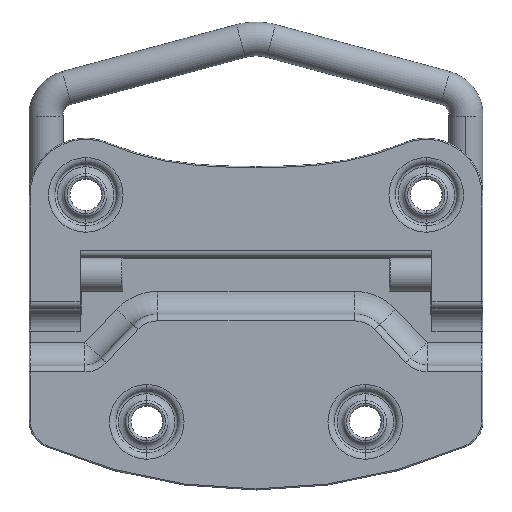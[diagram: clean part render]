
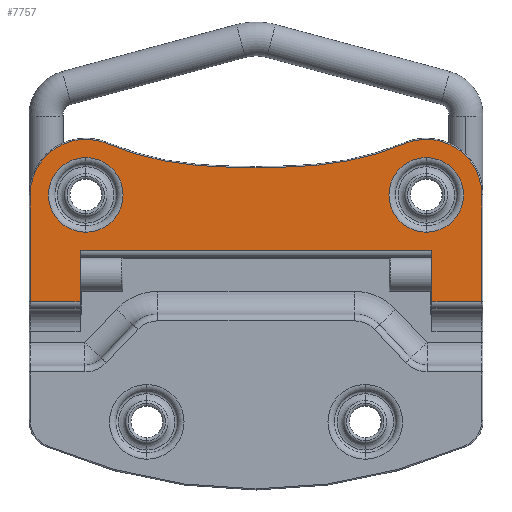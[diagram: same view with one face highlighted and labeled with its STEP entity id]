
A CAD part, front view. The second image highlights one B-rep face of the part: STEP entity #7757.
In plain terms, the highlighted planar face has unit normal (0, -1, 0).
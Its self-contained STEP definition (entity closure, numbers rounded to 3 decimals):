
#2444 = CARTESIAN_POINT ( 'NONE',  ( -39.8, -0.5, 21. ) ) ;
#2483 = CARTESIAN_POINT ( 'NONE',  ( 39.8, -0.5, 21. ) ) ;
#4289 = CARTESIAN_POINT ( 'NONE',  ( -31., -0.5, 2.2 ) ) ;
#4291 = CARTESIAN_POINT ( 'NONE',  ( 31., -0.5, 11.2 ) ) ;
#4292 = LINE ( 'NONE', #4291, #4328 ) ;
#4293 = DIRECTION ( 'NONE',  ( 0., 0., -1. ) ) ;
#4294 = VECTOR ( 'NONE', #4293, 1000. ) ;
#4296 = CARTESIAN_POINT ( 'NONE',  ( -31., -0.5, 10. ) ) ;
#4297 = LINE ( 'NONE', #4296, #4294 ) ;
#4303 = CARTESIAN_POINT ( 'NONE',  ( 31., -0.5, 11.2 ) ) ;
#4321 = CARTESIAN_POINT ( 'NONE',  ( 0., -0.5, 157.629 ) ) ;
#4322 = LINE ( 'NONE', #4371, #4370 ) ;
#4327 = DIRECTION ( 'NONE',  ( 1., 0., 0. ) ) ;
#4328 = VECTOR ( 'NONE', #4327, 1000. ) ;
#4330 = CARTESIAN_POINT ( 'NONE',  ( -31., -0.5, 11.2 ) ) ;
#4350 = CARTESIAN_POINT ( 'NONE',  ( 40., -0.5, 2.2 ) ) ;
#4351 = LINE ( 'NONE', #4350, #4402 ) ;
#4362 = DIRECTION ( 'NONE',  ( 0., 0., -1. ) ) ;
#4363 = DIRECTION ( 'NONE',  ( 0., 1., 0. ) ) ;
#4368 = AXIS2_PLACEMENT_3D ( 'NONE', #4321, #4363, #4362 ) ;
#4369 = DIRECTION ( 'NONE',  ( 0., 0., 1. ) ) ;
#4370 = VECTOR ( 'NONE', #4369, 1000. ) ;
#4371 = CARTESIAN_POINT ( 'NONE',  ( 31., -0.5, 10. ) ) ;
#4372 = CIRCLE ( 'NONE', #4368, 131.829 ) ;
#4373 = VECTOR ( 'NONE', #4376, 1000. ) ;
#4374 = CARTESIAN_POINT ( 'NONE',  ( -39.8, -0.5, 2.2 ) ) ;
#4375 = CARTESIAN_POINT ( 'NONE',  ( 26.187, -0.5, 30.028 ) ) ;
#4376 = DIRECTION ( 'NONE',  ( 1., 0., 0. ) ) ;
#4377 = CARTESIAN_POINT ( 'NONE',  ( -31., -0.5, 2.2 ) ) ;
#4381 = LINE ( 'NONE', #4377, #4373 ) ;
#4384 = CARTESIAN_POINT ( 'NONE',  ( 39.8, -0.5, 21. ) ) ;
#4385 = LINE ( 'NONE', #4384, #4445 ) ;
#4387 = DIRECTION ( 'NONE',  ( 0., 0., -1. ) ) ;
#4388 = DIRECTION ( 'NONE',  ( 0., -1., 0. ) ) ;
#4389 = AXIS2_PLACEMENT_3D ( 'NONE', #4392, #4388, #4387 ) ;
#4392 = CARTESIAN_POINT ( 'NONE',  ( 30., -0.5, 21. ) ) ;
#4395 = CARTESIAN_POINT ( 'NONE',  ( 39.8, -0.5, 2.2 ) ) ;
#4398 = CIRCLE ( 'NONE', #4389, 9.8 ) ;
#4400 = CARTESIAN_POINT ( 'NONE',  ( 31., -0.5, 2.2 ) ) ;
#4401 = DIRECTION ( 'NONE',  ( 1., 0., 0. ) ) ;
#4402 = VECTOR ( 'NONE', #4401, 1000. ) ;
#4416 = CIRCLE ( 'NONE', #4475, 50.2 ) ;
#4419 = CARTESIAN_POINT ( 'NONE',  ( -26.187, -0.5, 30.028 ) ) ;
#4422 = CARTESIAN_POINT ( 'NONE',  ( 6.654, -0.5, 76.272 ) ) ;
#4427 = DIRECTION ( 'NONE',  ( 0., 0., -1. ) ) ;
#4428 = VECTOR ( 'NONE', #4427, 1000. ) ;
#4429 = CARTESIAN_POINT ( 'NONE',  ( -39.8, -0.5, 2.2 ) ) ;
#4434 = CARTESIAN_POINT ( 'NONE',  ( 10.746, -0.5, 26.239 ) ) ;
#4440 = LINE ( 'NONE', #4429, #4428 ) ;
#4444 = DIRECTION ( 'NONE',  ( 0., 0., 1. ) ) ;
#4445 = VECTOR ( 'NONE', #4444, 1000. ) ;
#4450 = DIRECTION ( 'NONE',  ( 0., 0., -1. ) ) ;
#4451 = DIRECTION ( 'NONE',  ( 0., -1., 0. ) ) ;
#4452 = CARTESIAN_POINT ( 'NONE',  ( -30., -0.5, 21. ) ) ;
#4453 = AXIS2_PLACEMENT_3D ( 'NONE', #4452, #4451, #4450 ) ;
#4456 = CIRCLE ( 'NONE', #4453, 9.8 ) ;
#4463 = DIRECTION ( 'NONE',  ( 0., 0., -1. ) ) ;
#4464 = DIRECTION ( 'NONE',  ( 0., 1., 0. ) ) ;
#4465 = CARTESIAN_POINT ( 'NONE',  ( -30., -0.5, 21. ) ) ;
#4466 = AXIS2_PLACEMENT_3D ( 'NONE', #4465, #4464, #4463 ) ;
#4468 = DIRECTION ( 'NONE',  ( 0., 0., -1. ) ) ;
#4469 = DIRECTION ( 'NONE',  ( 0., 1., 0. ) ) ;
#4472 = CIRCLE ( 'NONE', #4466, 6.576 ) ;
#4475 = AXIS2_PLACEMENT_3D ( 'NONE', #4422, #4469, #4468 ) ;
#4485 = AXIS2_PLACEMENT_3D ( 'NONE', #4525, #4522, #4513 ) ;
#4488 = DIRECTION ( 'NONE',  ( 0., 0., -1. ) ) ;
#4489 = DIRECTION ( 'NONE',  ( 0., 1., 0. ) ) ;
#4491 = AXIS2_PLACEMENT_3D ( 'NONE', #4504, #4489, #4488 ) ;
#4492 = CIRCLE ( 'NONE', #4491, 50.2 ) ;
#4504 = CARTESIAN_POINT ( 'NONE',  ( -6.654, -0.5, 76.272 ) ) ;
#4512 = CARTESIAN_POINT ( 'NONE',  ( -30., -0.5, 14.424 ) ) ;
#4513 = DIRECTION ( 'NONE',  ( 0., 0., -1. ) ) ;
#4522 = DIRECTION ( 'NONE',  ( 0., 1., 0. ) ) ;
#4525 = CARTESIAN_POINT ( 'NONE',  ( -30., -0.5, 21. ) ) ;
#4530 = CIRCLE ( 'NONE', #4485, 6.576 ) ;
#4636 = CARTESIAN_POINT ( 'NONE',  ( 30., -0.5, 27.576 ) ) ;
#4640 = CARTESIAN_POINT ( 'NONE',  ( -30., -0.5, 27.576 ) ) ;
#4649 = DIRECTION ( 'NONE',  ( 0., 0., -1. ) ) ;
#4655 = AXIS2_PLACEMENT_3D ( 'NONE', #4658, #4669, #4649 ) ;
#4658 = CARTESIAN_POINT ( 'NONE',  ( 30., -0.5, 21. ) ) ;
#4664 = CIRCLE ( 'NONE', #4655, 6.576 ) ;
#4669 = DIRECTION ( 'NONE',  ( 0., 1., 0. ) ) ;
#4677 = CARTESIAN_POINT ( 'NONE',  ( 30., -0.5, 14.424 ) ) ;
#5219 = CARTESIAN_POINT ( 'NONE',  ( -10.746, -0.5, 26.239 ) ) ;
#5220 = CARTESIAN_POINT ( 'NONE',  ( 0., -0.5, 25.8 ) ) ;
#5242 = DIRECTION ( 'NONE',  ( 0., 0., -1. ) ) ;
#5243 = DIRECTION ( 'NONE',  ( 0., 1., 0. ) ) ;
#5245 = CARTESIAN_POINT ( 'NONE',  ( 0., -0.5, 157.629 ) ) ;
#5246 = AXIS2_PLACEMENT_3D ( 'NONE', #5245, #5243, #5242 ) ;
#5251 = CIRCLE ( 'NONE', #5246, 131.829 ) ;
#5665 = CARTESIAN_POINT ( 'NONE',  ( 40., -0.5, -31. ) ) ;
#5666 = PLANE ( 'NONE',  #5712 ) ;
#5667 = FACE_OUTER_BOUND ( 'NONE', #7168, .T. ) ;
#5668 = FACE_BOUND ( 'NONE', #7717, .T. ) ;
#5670 = AXIS2_PLACEMENT_3D ( 'NONE', #5700, #5699, #5698 ) ;
#5673 = DIRECTION ( 'NONE',  ( 0., -1., 0. ) ) ;
#5674 = FACE_BOUND ( 'NONE', #7758, .T. ) ;
#5698 = DIRECTION ( 'NONE',  ( 0., 0., -1. ) ) ;
#5699 = DIRECTION ( 'NONE',  ( 0., 1., 0. ) ) ;
#5700 = CARTESIAN_POINT ( 'NONE',  ( 30., -0.5, 21. ) ) ;
#5708 = DIRECTION ( 'NONE',  ( 0., 0., -1. ) ) ;
#5709 = CIRCLE ( 'NONE', #5670, 6.576 ) ;
#5712 = AXIS2_PLACEMENT_3D ( 'NONE', #5665, #5673, #5708 ) ;
#6008 = ORIENTED_EDGE ( 'NONE', *, *, #7109, .T. ) ;
#6011 = VERTEX_POINT ( 'NONE', #2444 ) ;
#6016 = VERTEX_POINT ( 'NONE', #2483 ) ;
#7041 = ORIENTED_EDGE ( 'NONE', *, *, #7073, .T. ) ;
#7042 = VERTEX_POINT ( 'NONE', #4303 ) ;
#7044 = EDGE_CURVE ( 'NONE', #7078, #7051, #4297, .T. ) ;
#7047 = ORIENTED_EDGE ( 'NONE', *, *, #7074, .F. ) ;
#7051 = VERTEX_POINT ( 'NONE', #4289 ) ;
#7058 = EDGE_CURVE ( 'NONE', #7078, #7042, #4292, .T. ) ;
#7068 = ORIENTED_EDGE ( 'NONE', *, *, #7058, .T. ) ;
#7071 = ORIENTED_EDGE ( 'NONE', *, *, #7097, .T. ) ;
#7073 = EDGE_CURVE ( 'NONE', #7080, #7051, #4381, .T. ) ;
#7074 = EDGE_CURVE ( 'NONE', #7092, #7042, #4322, .T. ) ;
#7075 = VERTEX_POINT ( 'NONE', #4375 ) ;
#7076 = EDGE_CURVE ( 'NONE', #7112, #7501, #4372, .T. ) ;
#7077 = ORIENTED_EDGE ( 'NONE', *, *, #7091, .T. ) ;
#7078 = VERTEX_POINT ( 'NONE', #4330 ) ;
#7080 = VERTEX_POINT ( 'NONE', #4374 ) ;
#7084 = ORIENTED_EDGE ( 'NONE', *, *, #7076, .T. ) ;
#7088 = EDGE_CURVE ( 'NONE', #7092, #7107, #4351, .T. ) ;
#7091 = EDGE_CURVE ( 'NONE', #6016, #7075, #4398, .T. ) ;
#7092 = VERTEX_POINT ( 'NONE', #4400 ) ;
#7093 = ORIENTED_EDGE ( 'NONE', *, *, #7088, .T. ) ;
#7094 = ORIENTED_EDGE ( 'NONE', *, *, #7123, .T. ) ;
#7095 = ORIENTED_EDGE ( 'NONE', *, *, #7044, .F. ) ;
#7097 = EDGE_CURVE ( 'NONE', #7107, #6016, #4385, .T. ) ;
#7100 = ORIENTED_EDGE ( 'NONE', *, *, #7516, .T. ) ;
#7105 = ORIENTED_EDGE ( 'NONE', *, *, #7146, .T. ) ;
#7107 = VERTEX_POINT ( 'NONE', #4395 ) ;
#7109 = EDGE_CURVE ( 'NONE', #6011, #7080, #4440, .T. ) ;
#7112 = VERTEX_POINT ( 'NONE', #4434 ) ;
#7123 = EDGE_CURVE ( 'NONE', #7075, #7112, #4416, .T. ) ;
#7129 = VERTEX_POINT ( 'NONE', #4419 ) ;
#7131 = EDGE_CURVE ( 'NONE', #7202, #7173, #4472, .T. ) ;
#7135 = ORIENTED_EDGE ( 'NONE', *, *, #7140, .T. ) ;
#7138 = ORIENTED_EDGE ( 'NONE', *, *, #7131, .T. ) ;
#7140 = EDGE_CURVE ( 'NONE', #7129, #6011, #4456, .T. ) ;
#7146 = EDGE_CURVE ( 'NONE', #7502, #7129, #4492, .T. ) ;
#7164 = EDGE_CURVE ( 'NONE', #7173, #7202, #4530, .T. ) ;
#7168 = EDGE_LOOP ( 'NONE', ( #7135, #6008, #7041, #7095, #7068, #7047, #7093, #7071, #7077, #7094, #7084, #7100, #7105 ) ) ;
#7173 = VERTEX_POINT ( 'NONE', #4512 ) ;
#7202 = VERTEX_POINT ( 'NONE', #4640 ) ;
#7217 = VERTEX_POINT ( 'NONE', #4636 ) ;
#7230 = EDGE_CURVE ( 'NONE', #7217, #7244, #4664, .T. ) ;
#7244 = VERTEX_POINT ( 'NONE', #4677 ) ;
#7501 = VERTEX_POINT ( 'NONE', #5220 ) ;
#7502 = VERTEX_POINT ( 'NONE', #5219 ) ;
#7516 = EDGE_CURVE ( 'NONE', #7501, #7502, #5251, .T. ) ;
#7717 = EDGE_LOOP ( 'NONE', ( #7762, #7138 ) ) ;
#7757 = ADVANCED_FACE ( 'NONE', ( #5674, #5668, #5667 ), #5666, .T. ) ;
#7758 = EDGE_LOOP ( 'NONE', ( #7763, #7759 ) ) ;
#7759 = ORIENTED_EDGE ( 'NONE', *, *, #7230, .T. ) ;
#7762 = ORIENTED_EDGE ( 'NONE', *, *, #7164, .T. ) ;
#7763 = ORIENTED_EDGE ( 'NONE', *, *, #7766, .T. ) ;
#7766 = EDGE_CURVE ( 'NONE', #7244, #7217, #5709, .T. ) ;
